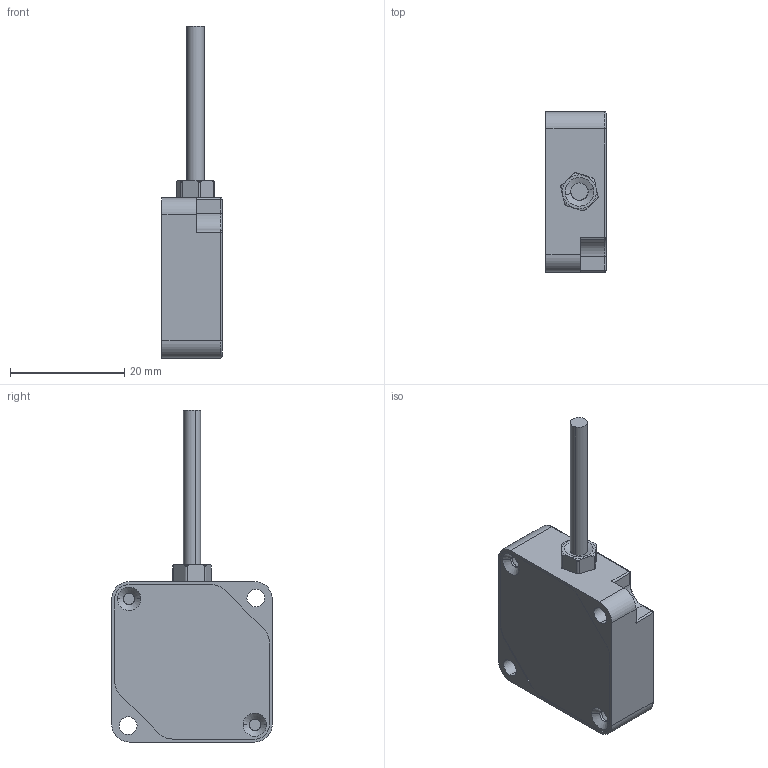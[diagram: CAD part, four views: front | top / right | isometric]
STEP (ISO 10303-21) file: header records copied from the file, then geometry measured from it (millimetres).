
FILE_DESCRIPTION (( 'STEP AP203' ), '1' );
FILE_NAME ('OMG_10_妗陑蚾饜极_2401012.STEP', '2024-01-02T03:07:54', ( '' ), ( '' ), 'SwSTEP 2.0', 'SolidWorks 2022', '' );
FILE_SCHEMA (( 'CONFIG_CONTROL_DESIGN' ));
Length unit declared in the file: millimetre
Products named in the file (5): Omg10-翋极-1023; 盄擢; Omg10-裔赽-1030; OMG_10_妗陑蚾饜极_2401012; Gland_Nut_240104
Assembly tree (4 placements, depth 2):
  OMG_10_妗陑蚾饜极_2401012
    Omg10-翋极-1023
    Omg10-裔赽-1030
    Gland_Nut_240104
    盄擢
Bounding box: 10.5 x 28 x 58 mm (x, y, z)
Volume: 8043.7 mm3; surface area: 5145.2 mm2
Topology: 4 solids, 4 shells, 1645 faces, 4296 edges, 2846 vertices
Faces by surface type: plane 1116, bspline 412, cylinder 89, torus 14, cone 10, sphere 4
Entity records: 71689 total; most frequent: CARTESIAN_POINT 33358, ORIENTED_EDGE 8584, DIRECTION 6128, EDGE_CURVE 4292, LINE 3256, VECTOR 3256, VERTEX_POINT 2846, EDGE_LOOP 1846
